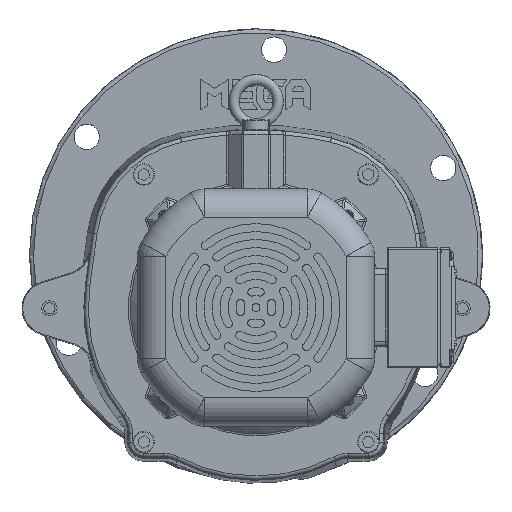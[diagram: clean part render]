
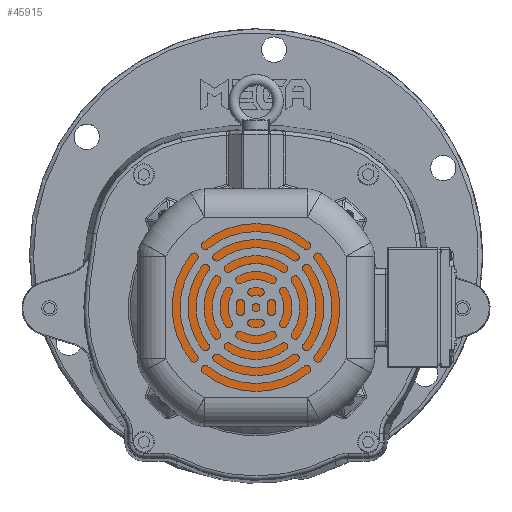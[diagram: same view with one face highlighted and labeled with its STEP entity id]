
A CAD part, top view. The second image highlights one B-rep face of the part: STEP entity #45915.
In plain terms, the highlighted planar face has unit normal (0, 0, 1).
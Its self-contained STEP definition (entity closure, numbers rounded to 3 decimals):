
#627=PLANE('',#49092);
#8017=FACE_OUTER_BOUND('',#10802,.T.);
#10802=EDGE_LOOP('',(#30210));
#13815=CIRCLE('',#49090,78.);
#18163=VERTEX_POINT('',#68706);
#22704=EDGE_CURVE('',#18163,#18163,#13815,.T.);
#30210=ORIENTED_EDGE('',*,*,#22704,.F.);
#45915=ADVANCED_FACE('',(#8017),#627,.F.);
#49090=AXIS2_PLACEMENT_3D('',#68707,#54866,#54867);
#49092=AXIS2_PLACEMENT_3D('',#68711,#54871,#54872);
#54866=DIRECTION('center_axis',(0.,0.,
-1.));
#54867=DIRECTION('ref_axis',(0.707,-0.707,0.));
#54871=DIRECTION('center_axis',(0.,0.,
-1.));
#54872=DIRECTION('ref_axis',(0.707,-0.707,0.));
#68706=CARTESIAN_POINT('',(-64.467,22.423,408.204));
#68707=CARTESIAN_POINT('Origin',(-9.313,-32.731,408.204));
#68711=CARTESIAN_POINT('Origin',(-9.313,-32.731,408.204));
